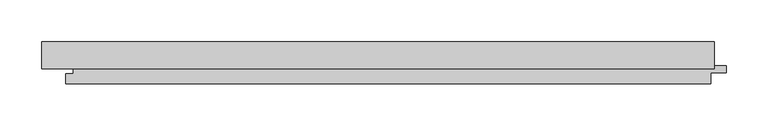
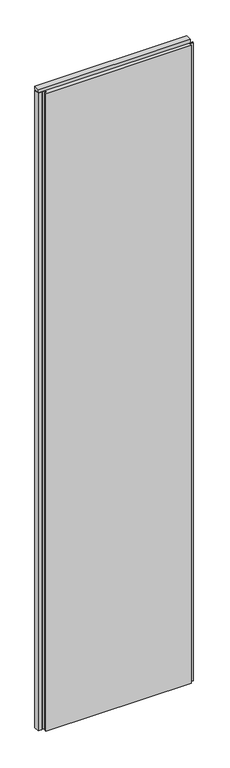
"""IFC4 building model written with IfcOpenShell, lengths in millimetres: plate geometry, Trimo_Qbiss Screen_Normal Panel-VERTICAL : HR - FB-F."""

from ifc_helpers import new_model, si_unit, frame, origin, place, context, project, spatial, polyline, outline, extrude, source, transform, mapped, element, save


def plate_712e27bc(model_context):
    return source(origin(), model_context, "Body", "SweptSolid", [
        extrude(outline(polyline([(-338.0, 97.0), (-338.0, 126.0), (-319.0, 126.0), (-319.0, 97.0), (-338.0, 97.0)])), frame((0.0, 0.0, 12.5), z_axis=(0.0, 0.0, 1.0), x_axis=(1.0, 0.0, 0.0)), (0.0, 0.0, 1.0), 3575.0),
        extrude(outline(polyline([(-338.0, 93.9), (-338.0, 126.0), (467.0, 126.0), (467.0, 93.9), (-338.0, 93.9)])), frame((0.0, 0.0, 3590.5), z_axis=(0.0, 0.0, 1.0), x_axis=(1.0, 0.0, 0.0)), (0.0, 0.0, 1.0), 19.0),
        extrude(outline(polyline([(463.0, 97.0), (481.5, 97.0), (481.5, 89.0), (463.0, 89.0), (463.0, 76.0), (-309.0, 76.0), (-309.0, 88.0), (-300.5, 88.0), (-300.5, 98.0), (-316.0, 98.0), (-316.0, 126.0), (463.0, 126.0), (463.0, 97.0)])), frame((0.0, 0.0, 12.5), z_axis=(0.0, 0.0, 1.0), x_axis=(1.0, 0.0, 0.0)), (0.0, 0.0, 1.0), 3575.0),
    ])


if __name__ == "__main__":
    model = new_model("IFC4")
    model_context = context("Model", 3, world=origin())
    ifc_project = project(units=[si_unit("LENGTHUNIT", "METRE", prefix="MILLI")], contexts=[model_context])
    site = spatial("IfcSite", under=ifc_project)
    building = spatial("IfcBuilding", under=site)
    placement = place(None, origin())
    plate_shape = plate_712e27bc(model_context)
    element("IfcPlate", 1, ObjectType="Trimo_Qbiss Screen_Normal Panel-VERTICAL : HR - FB-F", at=placement, inside=building, context=model_context, shape_type="MappedRepresentation", body=[
        mapped(plate_shape, transform((0.0, 0.0, 0.0), x_axis=(1.0, 0.0, 0.0), y_axis=(0.0, 1.0, 0.0), z_axis=(0.0, 0.0, 1.0))),
    ])
    save(model, "model.ifc")
